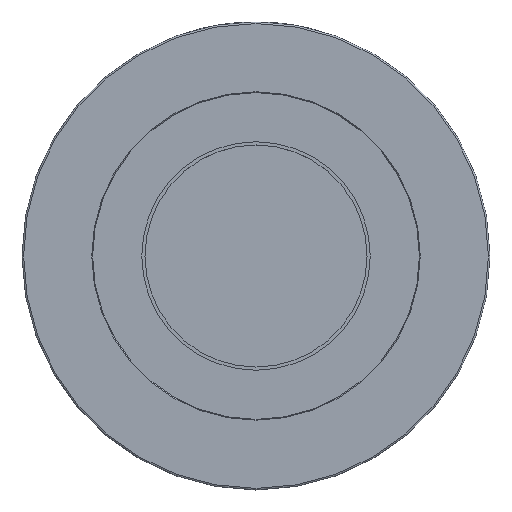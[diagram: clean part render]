
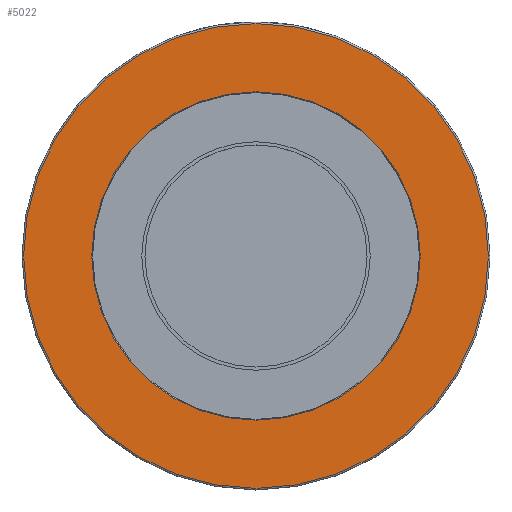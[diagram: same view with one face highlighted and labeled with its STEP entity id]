
A CAD part, top view. The second image highlights one B-rep face of the part: STEP entity #5022.
In plain terms, the highlighted planar face has unit normal (0, 0, 1).
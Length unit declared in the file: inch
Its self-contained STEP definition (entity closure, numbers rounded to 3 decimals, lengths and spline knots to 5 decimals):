
#1187=VERTEX_POINT('',#6217);
#1188=VERTEX_POINT('',#6219);
#1195=VERTEX_POINT('',#6235);
#1196=VERTEX_POINT('',#6237);
#1732=CIRCLE('',#29571,1.035);
#1739=CIRCLE('',#29580,1.465);
#1786=CIRCLE('',#29656,1.035);
#1787=CIRCLE('',#29657,1.465);
#1851=EDGE_CURVE('',#1188,#1187,#1732,.T.);
#1859=EDGE_CURVE('',#1196,#1195,#1739,.T.);
#2108=EDGE_CURVE('',#1187,#1188,#1786,.F.);
#2109=EDGE_CURVE('',#1195,#1196,#1787,.T.);
#2947=ORIENTED_EDGE('',*,*,#1851,.T.);
#2948=ORIENTED_EDGE('',*,*,#2108,.T.);
#2949=ORIENTED_EDGE('',*,*,#1859,.T.);
#2950=ORIENTED_EDGE('',*,*,#2109,.T.);
#4342=EDGE_LOOP('',(#2947,#2948));
#4343=EDGE_LOOP('',(#2949,#2950));
#4700=FACE_BOUND('',#4342,.T.);
#4701=FACE_BOUND('',#4343,.T.);
#5022=ADVANCED_FACE('',(#4700,#4701),#5320,.T.);
#5320=PLANE('',#29655);
#5492=DIRECTION('',(0.,0.,-1.));
#5493=DIRECTION('',(1.035,0.,0.));
#5509=DIRECTION('',(0.,0.,1.));
#5510=DIRECTION('',(1.465,0.,0.));
#5708=DIRECTION('',(0.,0.,1.));
#5709=DIRECTION('',(0.,0.,1.));
#5710=DIRECTION('',(1.035,0.,0.));
#5711=DIRECTION('',(0.,0.,1.));
#5712=DIRECTION('',(1.465,0.,0.));
#6217=CARTESIAN_POINT('',(-1.035,0.,0.));
#6218=CARTESIAN_POINT('',(0.,0.,0.));
#6219=CARTESIAN_POINT('',(1.035,0.,0.));
#6235=CARTESIAN_POINT('',(-1.465,0.,0.));
#6236=CARTESIAN_POINT('',(0.,0.,0.));
#6237=CARTESIAN_POINT('',(1.465,0.,0.));
#8253=CARTESIAN_POINT('',(1.03,0.,0.));
#8254=CARTESIAN_POINT('',(0.,0.,0.));
#8255=CARTESIAN_POINT('',(0.,0.,0.));
#29571=AXIS2_PLACEMENT_3D('',#6218,#5492,#5493);
#29580=AXIS2_PLACEMENT_3D('',#6236,#5509,#5510);
#29655=AXIS2_PLACEMENT_3D('',#8253,#5708,$);
#29656=AXIS2_PLACEMENT_3D('',#8254,#5709,#5710);
#29657=AXIS2_PLACEMENT_3D('',#8255,#5711,#5712);
